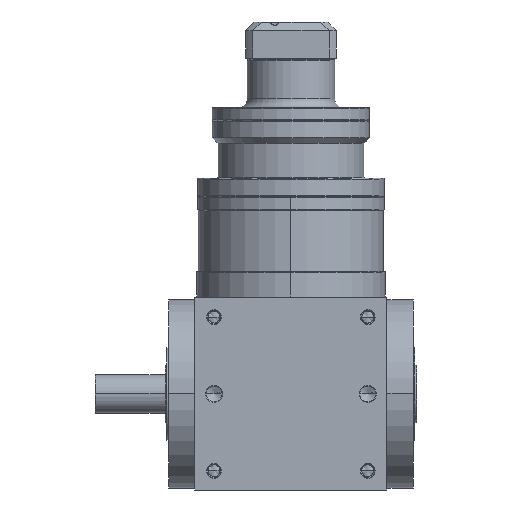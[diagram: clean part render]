
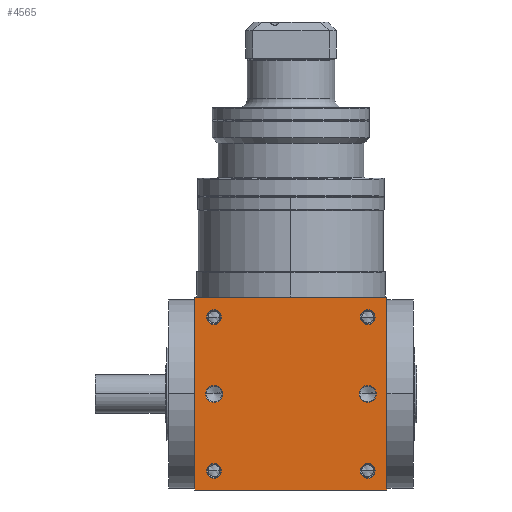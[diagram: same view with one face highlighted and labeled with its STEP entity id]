
A CAD part, front view. The second image highlights one B-rep face of the part: STEP entity #4565.
In plain terms, the highlighted planar face has unit normal (0, -1, 0).
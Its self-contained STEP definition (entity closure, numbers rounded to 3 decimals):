
#5=DIRECTION('',(1.,0.,0.));
#6=VECTOR('',#5,110.);
#7=CARTESIAN_POINT('',(-55.,-55.,-55.));
#8=LINE('',#7,#6);
#155=DIRECTION('',(0.,0.,1.));
#156=VECTOR('',#155,110.);
#157=CARTESIAN_POINT('',(55.,-55.,-55.));
#158=LINE('',#157,#156);
#209=DIRECTION('',(0.,0.,1.));
#210=VECTOR('',#209,110.);
#211=CARTESIAN_POINT('',(-55.,-55.,-55.));
#212=LINE('',#211,#210);
#213=CARTESIAN_POINT('',(44.,-55.,44.));
#214=DIRECTION('',(0.,1.,0.));
#215=DIRECTION('',(-1.,0.,0.));
#216=AXIS2_PLACEMENT_3D('',#213,#214,#215);
#218=CARTESIAN_POINT('',(44.,-55.,44.));
#219=DIRECTION('',(0.,1.,0.));
#220=DIRECTION('',(1.,0.,0.));
#221=AXIS2_PLACEMENT_3D('',#218,#219,#220);
#223=CARTESIAN_POINT('',(-44.,-55.,44.));
#224=DIRECTION('',(0.,1.,0.));
#225=DIRECTION('',(-1.,0.,0.));
#226=AXIS2_PLACEMENT_3D('',#223,#224,#225);
#228=CARTESIAN_POINT('',(-44.,-55.,44.));
#229=DIRECTION('',(0.,1.,0.));
#230=DIRECTION('',(1.,0.,0.));
#231=AXIS2_PLACEMENT_3D('',#228,#229,#230);
#233=CARTESIAN_POINT('',(44.,-55.,-44.));
#234=DIRECTION('',(0.,1.,0.));
#235=DIRECTION('',(-1.,0.,0.));
#236=AXIS2_PLACEMENT_3D('',#233,#234,#235);
#238=CARTESIAN_POINT('',(44.,-55.,-44.));
#239=DIRECTION('',(0.,1.,0.));
#240=DIRECTION('',(1.,0.,0.));
#241=AXIS2_PLACEMENT_3D('',#238,#239,#240);
#243=CARTESIAN_POINT('',(-44.,-55.,-44.));
#244=DIRECTION('',(0.,1.,0.));
#245=DIRECTION('',(-1.,0.,0.));
#246=AXIS2_PLACEMENT_3D('',#243,#244,#245);
#248=CARTESIAN_POINT('',(-44.,-55.,-44.));
#249=DIRECTION('',(0.,1.,0.));
#250=DIRECTION('',(1.,0.,0.));
#251=AXIS2_PLACEMENT_3D('',#248,#249,#250);
#253=CARTESIAN_POINT('',(-44.,-55.,0.));
#254=DIRECTION('',(0.,1.,0.));
#255=DIRECTION('',(1.,0.,0.));
#256=AXIS2_PLACEMENT_3D('',#253,#254,#255);
#258=CARTESIAN_POINT('',(-44.,-55.,0.));
#259=DIRECTION('',(0.,1.,0.));
#260=DIRECTION('',(-1.,0.,0.));
#261=AXIS2_PLACEMENT_3D('',#258,#259,#260);
#263=CARTESIAN_POINT('',(44.,-55.,0.));
#264=DIRECTION('',(0.,1.,0.));
#265=DIRECTION('',(1.,0.,0.));
#266=AXIS2_PLACEMENT_3D('',#263,#264,#265);
#268=CARTESIAN_POINT('',(44.,-55.,0.));
#269=DIRECTION('',(0.,1.,0.));
#270=DIRECTION('',(-1.,0.,0.));
#271=AXIS2_PLACEMENT_3D('',#268,#269,#270);
#285=DIRECTION('',(1.,0.,0.));
#286=VECTOR('',#285,110.);
#287=CARTESIAN_POINT('',(-55.,-55.,55.));
#288=LINE('',#287,#286);
#3666=CARTESIAN_POINT('',(-55.,-55.,-55.));
#3668=VERTEX_POINT('',#3666);
#3669=CARTESIAN_POINT('',(55.,-55.,-55.));
#3670=VERTEX_POINT('',#3669);
#3674=CARTESIAN_POINT('',(-55.,-55.,55.));
#3676=VERTEX_POINT('',#3674);
#3677=CARTESIAN_POINT('',(55.,-55.,55.));
#3678=VERTEX_POINT('',#3677);
#3845=CARTESIAN_POINT('',(39.8,-55.,44.));
#3846=CARTESIAN_POINT('',(48.2,-55.,44.));
#3847=VERTEX_POINT('',#3845);
#3848=VERTEX_POINT('',#3846);
#3853=CARTESIAN_POINT('',(-48.2,-55.,44.));
#3854=CARTESIAN_POINT('',(-39.8,-55.,44.));
#3855=VERTEX_POINT('',#3853);
#3856=VERTEX_POINT('',#3854);
#3861=CARTESIAN_POINT('',(39.8,-55.,-44.));
#3862=CARTESIAN_POINT('',(48.2,-55.,-44.));
#3863=VERTEX_POINT('',#3861);
#3864=VERTEX_POINT('',#3862);
#3869=CARTESIAN_POINT('',(-48.2,-55.,-44.));
#3870=CARTESIAN_POINT('',(-39.8,-55.,-44.));
#3871=VERTEX_POINT('',#3869);
#3872=VERTEX_POINT('',#3870);
#4211=CARTESIAN_POINT('',(-39.15,-55.,
0.));
#4212=CARTESIAN_POINT('',(-48.85,-55.,
0.));
#4213=VERTEX_POINT('',#4211);
#4214=VERTEX_POINT('',#4212);
#4219=CARTESIAN_POINT('',(48.85,-55.,0.));
#4220=CARTESIAN_POINT('',(39.15,-55.,0.));
#4221=VERTEX_POINT('',#4219);
#4222=VERTEX_POINT('',#4220);
#4517=CARTESIAN_POINT('',(-55.,-55.,-55.));
#4518=DIRECTION('',(0.,-1.,0.));
#4519=DIRECTION('',(1.,0.,0.));
#4520=AXIS2_PLACEMENT_3D('',#4517,#4518,#4519);
#4521=PLANE('',#4520);
#4522=ORIENTED_EDGE('',*,*,#4357,.F.);
#4523=ORIENTED_EDGE('',*,*,#4400,.T.);
#4525=ORIENTED_EDGE('',*,*,#4524,.T.);
#4526=ORIENTED_EDGE('',*,*,#4479,.F.);
#4527=EDGE_LOOP('',(#4522,#4523,#4525,#4526));
#4528=FACE_OUTER_BOUND('',#4527,.F.);
#4530=ORIENTED_EDGE('',*,*,#4529,.F.);
#4532=ORIENTED_EDGE('',*,*,#4531,.F.);
#4533=EDGE_LOOP('',(#4530,#4532));
#4534=FACE_BOUND('',#4533,.F.);
#4536=ORIENTED_EDGE('',*,*,#4535,.F.);
#4538=ORIENTED_EDGE('',*,*,#4537,.F.);
#4539=EDGE_LOOP('',(#4536,#4538));
#4540=FACE_BOUND('',#4539,.F.);
#4542=ORIENTED_EDGE('',*,*,#4541,.F.);
#4544=ORIENTED_EDGE('',*,*,#4543,.F.);
#4545=EDGE_LOOP('',(#4542,#4544));
#4546=FACE_BOUND('',#4545,.F.);
#4548=ORIENTED_EDGE('',*,*,#4547,.F.);
#4550=ORIENTED_EDGE('',*,*,#4549,.F.);
#4551=EDGE_LOOP('',(#4548,#4550));
#4552=FACE_BOUND('',#4551,.F.);
#4554=ORIENTED_EDGE('',*,*,#4553,.F.);
#4556=ORIENTED_EDGE('',*,*,#4555,.F.);
#4557=EDGE_LOOP('',(#4554,#4556));
#4558=FACE_BOUND('',#4557,.F.);
#4560=ORIENTED_EDGE('',*,*,#4559,.F.);
#4562=ORIENTED_EDGE('',*,*,#4561,.F.);
#4563=EDGE_LOOP('',(#4560,#4562));
#4564=FACE_BOUND('',#4563,.F.);
#4565=ADVANCED_FACE('',(#4528,#4534,#4540,#4546,#4552,#4558,#4564),#4521,.T.);
#217=CIRCLE('',#216,4.2);
#222=CIRCLE('',#221,4.2);
#227=CIRCLE('',#226,4.2);
#232=CIRCLE('',#231,4.2);
#237=CIRCLE('',#236,4.2);
#242=CIRCLE('',#241,4.2);
#247=CIRCLE('',#246,4.2);
#252=CIRCLE('',#251,4.2);
#257=CIRCLE('',#256,4.85);
#262=CIRCLE('',#261,4.85);
#267=CIRCLE('',#266,4.85);
#272=CIRCLE('',#271,4.85);
#4357=EDGE_CURVE('',#3668,#3670,#8,.T.);
#4400=EDGE_CURVE('',#3668,#3676,#212,.T.);
#4479=EDGE_CURVE('',#3670,#3678,#158,.T.);
#4524=EDGE_CURVE('',#3676,#3678,#288,.T.);
#4529=EDGE_CURVE('',#3847,#3848,#217,.T.);
#4531=EDGE_CURVE('',#3848,#3847,#222,.T.);
#4535=EDGE_CURVE('',#3855,#3856,#227,.T.);
#4537=EDGE_CURVE('',#3856,#3855,#232,.T.);
#4541=EDGE_CURVE('',#3863,#3864,#237,.T.);
#4543=EDGE_CURVE('',#3864,#3863,#242,.T.);
#4547=EDGE_CURVE('',#3871,#3872,#247,.T.);
#4549=EDGE_CURVE('',#3872,#3871,#252,.T.);
#4553=EDGE_CURVE('',#4213,#4214,#257,.T.);
#4555=EDGE_CURVE('',#4214,#4213,#262,.T.);
#4559=EDGE_CURVE('',#4221,#4222,#267,.T.);
#4561=EDGE_CURVE('',#4222,#4221,#272,.T.);
